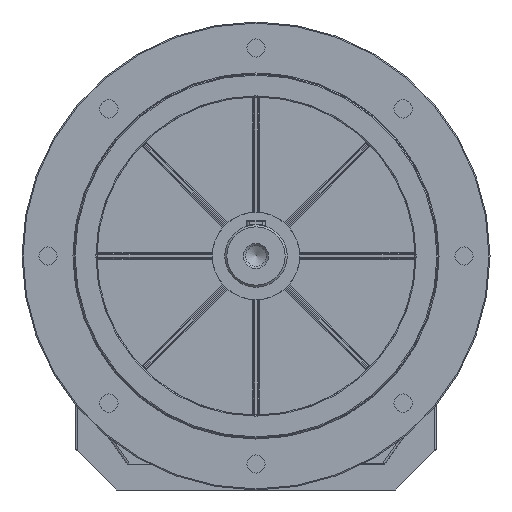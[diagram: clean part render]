
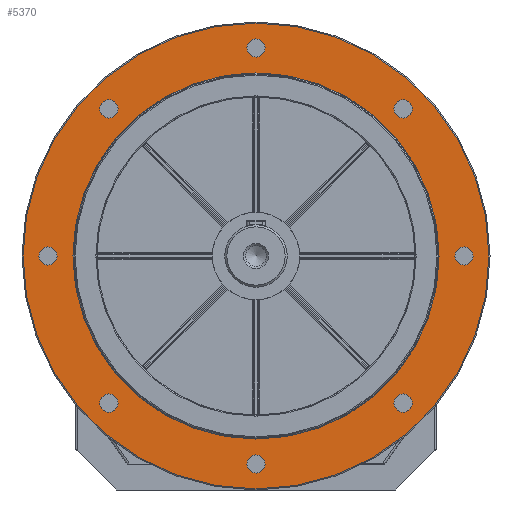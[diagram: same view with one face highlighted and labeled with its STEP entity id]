
A CAD part, front view. The second image highlights one B-rep face of the part: STEP entity #5370.
In plain terms, the highlighted planar face has unit normal (0, -1, 0).
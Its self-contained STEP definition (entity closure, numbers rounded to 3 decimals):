
#5248=CARTESIAN_POINT('',(0.0,-195.0,449.0));
#5249=VERTEX_POINT('',#5248);
#5250=CARTESIAN_POINT('',(0.0,-195.0,225.));
#5251=DIRECTION('',(0.0,1.0,0.0));
#5252=DIRECTION('',(0.0,0.0,-1.0));
#5253=AXIS2_PLACEMENT_3D('',#5250,#5251,#5252);
#5254=CIRCLE('',#5253,224.);
#5255=EDGE_CURVE('',#5249,#5249,#5254,.T.);
#5263=CARTESIAN_POINT('',(0.0,-195.0,425.0));
#5264=DIRECTION('',(0.0,-1.0,0.0));
#5265=DIRECTION('',(0.0,0.0,-1.0));
#5266=AXIS2_PLACEMENT_3D('',#5263,#5264,#5265);
#5267=PLANE('',#5266);
#5268=ORIENTED_EDGE('',*,*,#5255,.F.);
#5269=EDGE_LOOP('',(#5268));
#5270=FACE_OUTER_BOUND('',#5269,.T.);
#5271=CARTESIAN_POINT('',(0.,-195.0,401.0));
#5272=VERTEX_POINT('',#5271);
#5273=CARTESIAN_POINT('',(0.0,-195.0,225.));
#5274=DIRECTION('',(0.0,-1.0,0.0));
#5275=DIRECTION('',(0.0,0.0,-1.0));
#5276=AXIS2_PLACEMENT_3D('',#5273,#5274,#5275);
#5277=CIRCLE('',#5276,176.);
#5278=EDGE_CURVE('',#5272,#5272,#5277,.T.);
#5279=ORIENTED_EDGE('',*,*,#5278,.F.);
#5280=EDGE_LOOP('',(#5279));
#5281=FACE_BOUND('',#5280,.T.);
#5282=CARTESIAN_POINT('',(-191.25,-195.0,225.));
#5283=VERTEX_POINT('',#5282);
#5284=CARTESIAN_POINT('',(-200.,-195.0,225.));
#5285=DIRECTION('',(0.0,1.0,0.0));
#5286=DIRECTION('',(1.0,0.0,0.0));
#5287=AXIS2_PLACEMENT_3D('',#5284,#5285,#5286);
#5288=CIRCLE('',#5287,8.75);
#5289=EDGE_CURVE('',#5283,#5283,#5288,.T.);
#5290=ORIENTED_EDGE('',*,*,#5289,.T.);
#5291=EDGE_LOOP('',(#5290));
#5292=FACE_BOUND('',#5291,.T.);
#5293=CARTESIAN_POINT('',(8.75,-195.0,425.0));
#5294=VERTEX_POINT('',#5293);
#5295=CARTESIAN_POINT('',(0.0,-195.0,425.0));
#5296=DIRECTION('',(0.0,1.0,0.0));
#5297=DIRECTION('',(1.0,0.0,0.0));
#5298=AXIS2_PLACEMENT_3D('',#5295,#5296,#5297);
#5299=CIRCLE('',#5298,8.75);
#5300=EDGE_CURVE('',#5294,#5294,#5299,.T.);
#5301=ORIENTED_EDGE('',*,*,#5300,.T.);
#5302=EDGE_LOOP('',(#5301));
#5303=FACE_BOUND('',#5302,.T.);
#5304=CARTESIAN_POINT('',(8.75,-195.0,25.));
#5305=VERTEX_POINT('',#5304);
#5306=CARTESIAN_POINT('',(0.0,-195.0,25.));
#5307=DIRECTION('',(0.0,1.0,0.0));
#5308=DIRECTION('',(1.0,0.0,0.0));
#5309=AXIS2_PLACEMENT_3D('',#5306,#5307,#5308);
#5310=CIRCLE('',#5309,8.75);
#5311=EDGE_CURVE('',#5305,#5305,#5310,.T.);
#5312=ORIENTED_EDGE('',*,*,#5311,.T.);
#5313=EDGE_LOOP('',(#5312));
#5314=FACE_BOUND('',#5313,.T.);
#5315=CARTESIAN_POINT('',(208.75,-195.0,225.));
#5316=VERTEX_POINT('',#5315);
#5317=CARTESIAN_POINT('',(200.,-195.0,225.));
#5318=DIRECTION('',(0.0,1.0,0.0));
#5319=DIRECTION('',(1.0,0.0,0.0));
#5320=AXIS2_PLACEMENT_3D('',#5317,#5318,#5319);
#5321=CIRCLE('',#5320,8.75);
#5322=EDGE_CURVE('',#5316,#5316,#5321,.T.);
#5323=ORIENTED_EDGE('',*,*,#5322,.T.);
#5324=EDGE_LOOP('',(#5323));
#5325=FACE_BOUND('',#5324,.T.);
#5326=CARTESIAN_POINT('',(-132.671,-195.0,366.421));
#5327=VERTEX_POINT('',#5326);
#5328=CARTESIAN_POINT('',(-141.421,-195.0,366.421));
#5329=DIRECTION('',(0.0,1.0,0.0));
#5330=DIRECTION('',(1.0,0.0,0.0));
#5331=AXIS2_PLACEMENT_3D('',#5328,#5329,#5330);
#5332=CIRCLE('',#5331,8.75);
#5333=EDGE_CURVE('',#5327,#5327,#5332,.T.);
#5334=ORIENTED_EDGE('',*,*,#5333,.T.);
#5335=EDGE_LOOP('',(#5334));
#5336=FACE_BOUND('',#5335,.T.);
#5337=CARTESIAN_POINT('',(150.171,-195.0,366.421));
#5338=VERTEX_POINT('',#5337);
#5339=CARTESIAN_POINT('',(141.421,-195.0,366.421));
#5340=DIRECTION('',(0.0,1.0,0.0));
#5341=DIRECTION('',(1.0,0.0,0.0));
#5342=AXIS2_PLACEMENT_3D('',#5339,#5340,#5341);
#5343=CIRCLE('',#5342,8.75);
#5344=EDGE_CURVE('',#5338,#5338,#5343,.T.);
#5345=ORIENTED_EDGE('',*,*,#5344,.T.);
#5346=EDGE_LOOP('',(#5345));
#5347=FACE_BOUND('',#5346,.T.);
#5348=CARTESIAN_POINT('',(150.171,-195.0,83.579));
#5349=VERTEX_POINT('',#5348);
#5350=CARTESIAN_POINT('',(141.421,-195.0,83.579));
#5351=DIRECTION('',(0.0,1.0,0.0));
#5352=DIRECTION('',(1.0,0.0,0.0));
#5353=AXIS2_PLACEMENT_3D('',#5350,#5351,#5352);
#5354=CIRCLE('',#5353,8.75);
#5355=EDGE_CURVE('',#5349,#5349,#5354,.T.);
#5356=ORIENTED_EDGE('',*,*,#5355,.T.);
#5357=EDGE_LOOP('',(#5356));
#5358=FACE_BOUND('',#5357,.T.);
#5359=CARTESIAN_POINT('',(-132.671,-195.0,83.579));
#5360=VERTEX_POINT('',#5359);
#5361=CARTESIAN_POINT('',(-141.421,-195.0,83.579));
#5362=DIRECTION('',(0.0,1.0,0.0));
#5363=DIRECTION('',(1.0,0.0,0.0));
#5364=AXIS2_PLACEMENT_3D('',#5361,#5362,#5363);
#5365=CIRCLE('',#5364,8.75);
#5366=EDGE_CURVE('',#5360,#5360,#5365,.T.);
#5367=ORIENTED_EDGE('',*,*,#5366,.T.);
#5368=EDGE_LOOP('',(#5367));
#5369=FACE_BOUND('',#5368,.T.);
#5370=ADVANCED_FACE('',(#5270,#5281,#5292,#5303,#5314,#5325,#5336,#5347,#5358,#5369),#5267,.T.);
